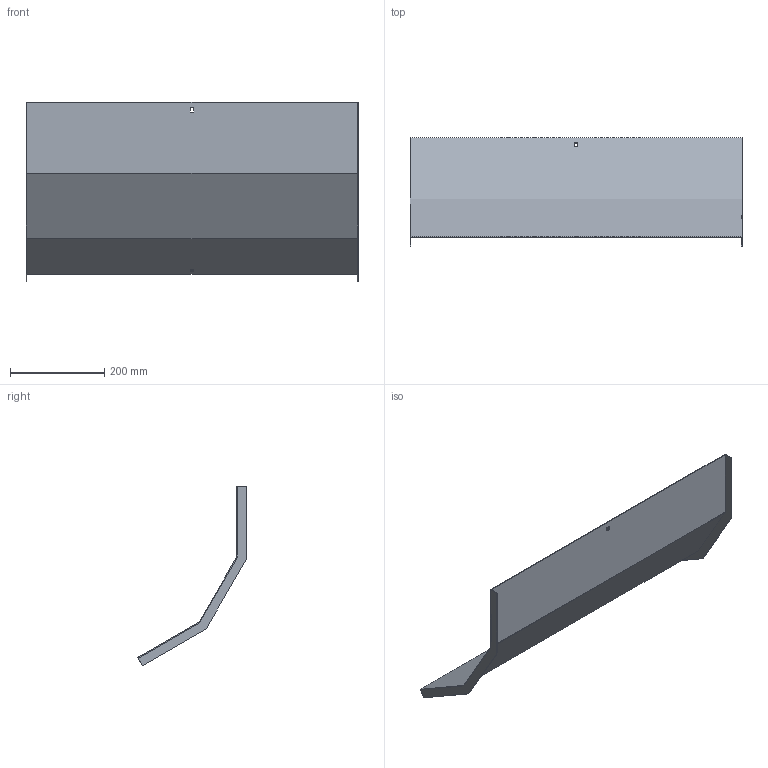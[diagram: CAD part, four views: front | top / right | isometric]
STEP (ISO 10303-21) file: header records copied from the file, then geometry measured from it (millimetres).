
FILE_DESCRIPTION (( 'STEP AP214' ), '1' );
FILE_NAME ('A2X40N3R700X.step', '2025-04-02T08:35:19', ( '' ), ( '' ), 'SwSTEP 2.0', 'SolidWorks 2023', '' );
FILE_SCHEMA (( 'AUTOMOTIVE_DESIGN' ));
Length unit declared in the file: millimetre
Products named in the file (1): A2X40N3R700X
Bounding box: 703 x 229.74 x 380.61 mm (x, y, z)
Volume: 511467.6 mm3; surface area: 685710.5 mm2
Topology: 1 solids, 1 shells, 26 faces, 72 edges, 48 vertices
Faces by surface type: plane 26
Entity records: 847 total; most frequent: CARTESIAN_POINT 147, ORIENTED_EDGE 144, DIRECTION 126, LINE 72, VECTOR 72, EDGE_CURVE 72, VERTEX_POINT 48, EDGE_LOOP 30
